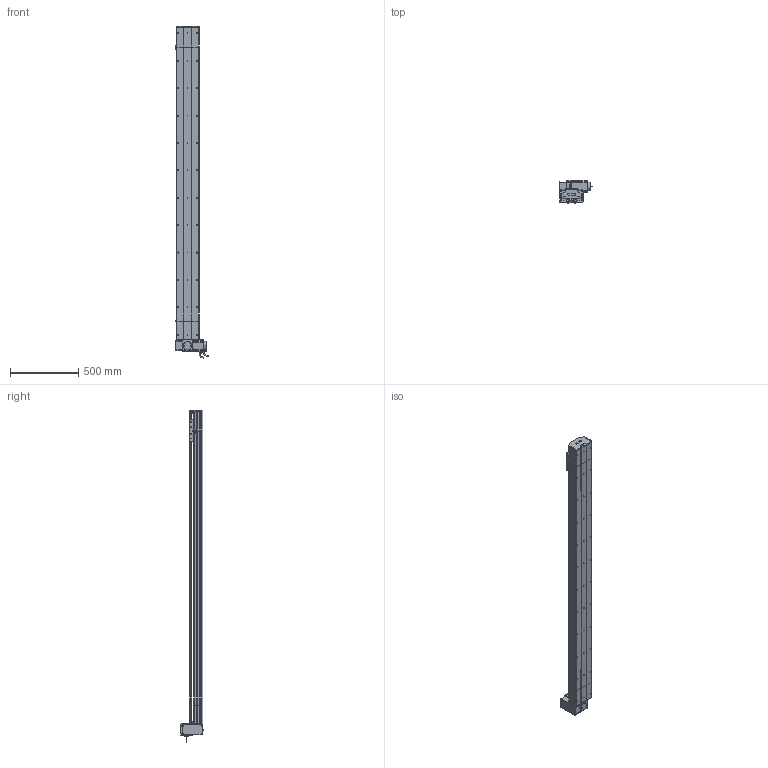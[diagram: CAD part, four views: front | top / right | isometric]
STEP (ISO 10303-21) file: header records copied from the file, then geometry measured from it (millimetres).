
FILE_DESCRIPTION (( 'STEP AP214' ), '1' );
FILE_NAME ('D17 TBH RT S2000.STEP', '2010-06-30T08:25:50', ( 'Christophe Gaillard' ), ( 'SGA' ), 'SwSTEP 2.0', 'SolidWorks 2010', '' );
FILE_SCHEMA (( 'AUTOMOTIVE_DESIGN' ));
Length unit declared in the file: millimetre
Products named in the file (40): D17 TBH RT S2000; Couroie+ rail D17 Course 2000 ; vis M5 L12_Default; guide D17; vis M5 L8 90°_Default; couvercle D17B_Default; Couroie tail D17B_Default; Chariot D17; chariot D17S_Default; vis M5 L25_Default; poulie tail_Default; plaque de  bout tail D17B_Default; Rail D17B; tete d''axe poulie D17B; corp D17B 2000_Default; course 2000 D17B_Default; plaque de  bout head D17B RT_Default; couvercle D17B head_Default; corpl head D17 _Default; vis M5 L5_Default; cache D17_Default; Arbre+rail head D17B; avant 90BLDC125A-640; Moteur motionking 90BLDC125A-640; couroie head D17_Default; poulie head_Default; Conecteur2_Default; codeur 90BLDC125-640; corps 90BLDC125A-640; Plaque racord D17_Default; vis M5 L70_Default; Conecteur_Default; cache arbre D17_Default; Vis M5 L16-2_Default; vis M5 L16_Default; corpl tail D17B_Default; Tail D17B_Default; Renvoi RT_Default; Head RT D17B_Default; couvercle D17B course L2000_Default
Assembly tree (70 placements, depth 4):
  D17 TBH RT S2000
    chariot D17S_Default
      vis M5 L12_Default  x4
      Chariot D17
      guide D17  x2
    course 2000 D17B_Default
      Couroie+ rail D17 Course 2000 
      corp D17B 2000_Default
      couvercle D17B course L2000_Default
    Tail D17B_Default
      vis M5 L25_Default  x2
      vis M5 L8 90°_Default  x2
      plaque de  bout tail D17B_Default
      corpl tail D17B_Default
      vis M5 L12_Default  x4
      poulie tail_Default
      Rail D17B
      couvercle D17B_Default
      tete d''axe poulie D17B
      Couroie tail D17B_Default
    Head RT D17B_Default
      vis M5 L12_Default  x8
      vis M5 L25_Default  x2
      corpl head D17 _Default
      couvercle D17B head_Default
      vis M5 L16_Default  x2
      vis M5 L70_Default  x4
      Arbre+rail head D17B
      vis M5 L5_Default  x4
      Moteur motionking 90BLDC125A-640
        avant 90BLDC125A-640
        codeur 90BLDC125-640
        Conecteur_Default
        Conecteur2_Default
        corps 90BLDC125A-640
      poulie head_Default
      Renvoi RT_Default
      Vis M5 L16-2_Default  x4
      couroie head D17_Default
      cache D17_Default  x2
      plaque de  bout head D17B RT_Default
      Plaque racord D17_Default
      cache arbre D17_Default
Bounding box: 245.2 x 166.15 x 2423.95 mm (x, y, z)
Volume: 14321055.9 mm3; surface area: 4113592.2 mm2
Topology: 94 solids, 94 shells, 2713 faces, 6865 edges, 4418 vertices
Faces by surface type: plane 1607, cylinder 793, bspline 136, cone 88, torus 85, sphere 4
Entity records: 85272 total; most frequent: CARTESIAN_POINT 25149, ORIENTED_EDGE 10502, DIRECTION 9964, EDGE_CURVE 5251, VECTOR 3470, LINE 3470, VERTEX_POINT 3442, AXIS2_PLACEMENT_3D 3247
